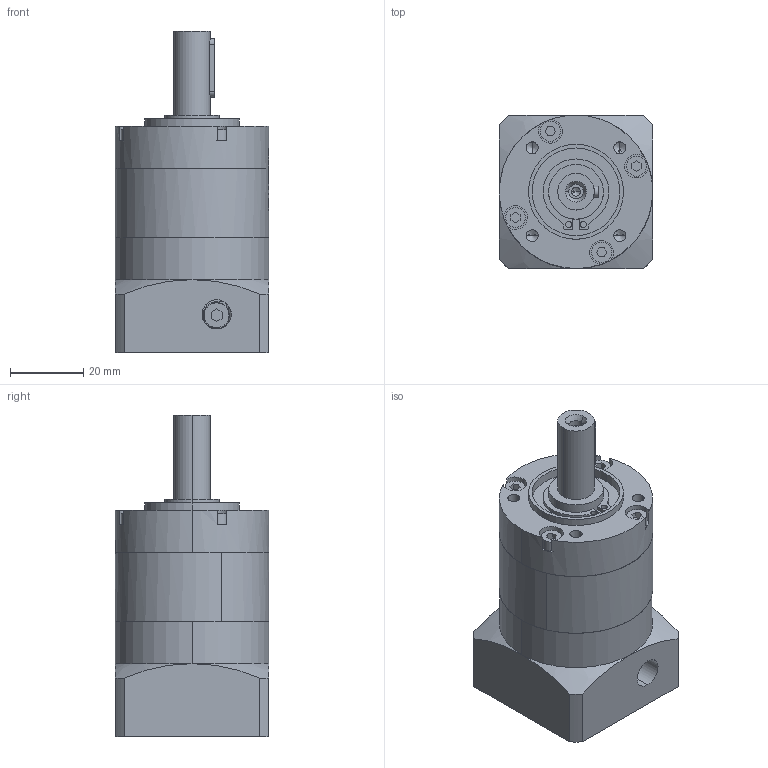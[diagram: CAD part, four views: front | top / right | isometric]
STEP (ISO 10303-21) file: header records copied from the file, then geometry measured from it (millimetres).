
FILE_DESCRIPTION (( 'STEP AP203' ), '1' );
FILE_NAME ('PLE040-L1-8-30-45.STEP', '2022-07-01T02:32:36', ( 'Windows User' ), ( 'P R C' ), 'SwSTEP 2.0', 'SolidWorks 2016', '' );
FILE_SCHEMA (( 'CONFIG_CONTROL_DESIGN' ));
Length unit declared in the file: millimetre
Products named in the file (7): GB／T276-94深沟球轴承61902-2RZ; PLE040-L1-8-30-45; PLE040 奻屳唳_D1-70 D2-5.5 D3-14 D4-17 D5-50 L1-30 L2-35 L3-3 A1-60 S1-3 S2-20 S3-5 S4-18 B-5 H-16 C-M5 梓袧; PLE040 κｳﾝﾈｦ_ﾒｻｼｶﾄﾚｳﾝﾈｦ; PLE040 帣釱-8-30-M3-45_D6-60 D7-14 梓袧; 邧埴瑩 3x3x16; 囀鞠褒蹟佪-M4℅12
Assembly tree (6 placements, depth 2):
  PLE040-L1-8-30-45
    PLE040 奻屳唳_D1-70 D2-5.5 D3-14 D4-17 D5-50 L1-30 L2-35 L3-3 A1-60 S1-3 S2-20 S3-5 S4-18 B-5 H-16 C-M5 梓袧
    PLE040 κｳﾝﾈｦ_ﾒｻｼｶﾄﾚｳﾝﾈｦ
    PLE040 帣釱-8-30-M3-45_D6-60 D7-14 梓袧
    邧埴瑩 3x3x16
    囀鞠褒蹟佪-M4℅12
    GB／T276-94深沟球轴承61902-2RZ
Bounding box: 42 x 42 x 88 mm (x, y, z)
Volume: 80325.1 mm3; surface area: 34071.6 mm2
Topology: 6 solids, 10 shells, 988 faces, 2733 edges, 1803 vertices
Faces by surface type: plane 536, cylinder 162, bspline 148, sphere 74, torus 46, cone 22
Entity records: 42050 total; most frequent: CARTESIAN_POINT 17412, ORIENTED_EDGE 5370, DIRECTION 4358, EDGE_CURVE 2685, VERTEX_POINT 1783, AXIS2_PLACEMENT_3D 1485, LINE 1388, VECTOR 1388
